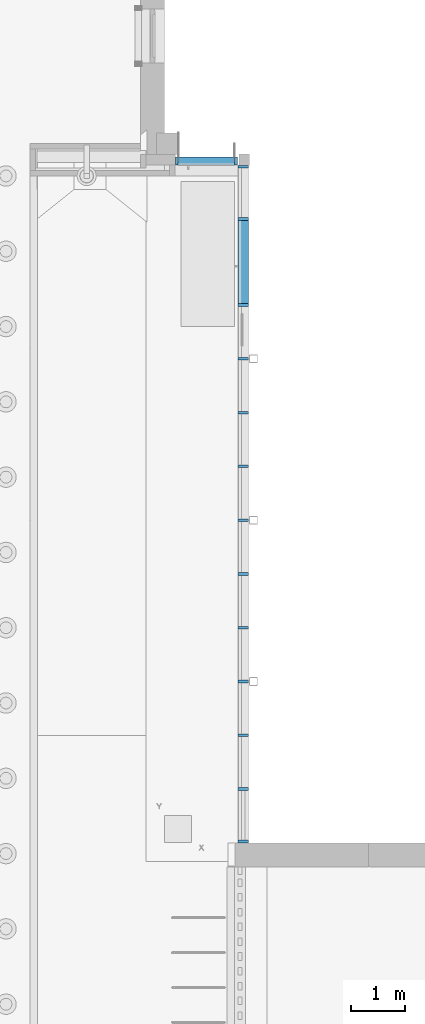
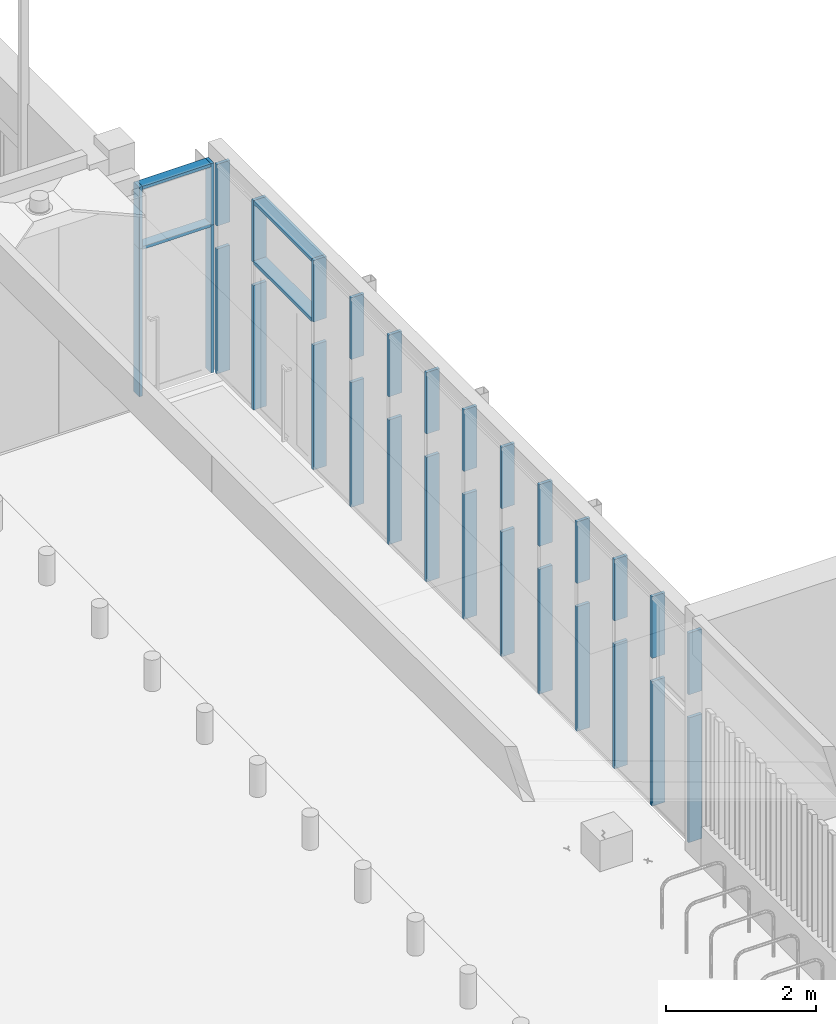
# One storey, part 5 of 77: 34 members, 2 elements without a shape of their own.
"""IFC2X3 building model written with IfcOpenShell, lengths in millimetres."""

import ifcopenshell
import ifcopenshell.guid

model = None  # the IFC model being written
_history = None  # IfcOwnerHistory: only IFC2X3 demands one
_inside = {}  # id of a spatial element -> (the spatial element, [elements in it])
_under = {}  # id of a project, library or spatial element -> (it, [spatial elements below it])
_declared = {}  # id of a project -> (the project, [libraries it declares])
_typed = {}  # id of a type object -> (the type object, [elements of that type])
_made_of = {}  # id of a material, layer set ... -> (it, [elements and type objects made of it])


def new_model(schema):
    """Start an empty IFC model of exactly this schema.

    Asked for "IFC4X3", IfcOpenShell would pick the latest addendum, in which some entities
    have other attributes; the version numbers below select the first issue.
    IFC2X3 requires an IfcOwnerHistory on every rooted entity: one is made here for all.
    """
    global model, _history
    if schema == "IFC4X3":
        model = ifcopenshell.file(schema_version=(4, 3, 0, 0))
    else:
        model = ifcopenshell.file(schema=schema)
    _inside.clear()
    _under.clear()
    _declared.clear()
    _typed.clear()
    _made_of.clear()
    _history = None
    if model.schema == "IFC2X3":
        org = make("IfcOrganization", Name="unknown")
        user = make(
            "IfcPersonAndOrganization",
            ThePerson=make("IfcPerson", FamilyName="unknown"),
            TheOrganization=org,
        )
        app = make(
            "IfcApplication",
            ApplicationDeveloper=org,
            Version="unknown",
            ApplicationFullName="unknown",
            ApplicationIdentifier="unknown",
        )
        _history = make(
            "IfcOwnerHistory",
            OwningUser=user,
            OwningApplication=app,
            ChangeAction="ADDED",
            CreationDate=0,
        )
    return model


def make(cls, **values):
    """One entity of the class cls with the attributes given. An attribute that is None is left unset."""
    return model.create_entity(
        cls, **{name: value for name, value in values.items() if value is not None}
    )


def entity(cls, *values):
    """Any entity or typed value of the class cls, its attributes in the order of the schema. None: left unset."""
    e = model.create_entity(cls)
    for i, value in enumerate(values):
        if value is not None:
            e[i] = value
    return e


def rooted(cls, **values):
    """An entity with a GlobalId (a new one), such as an element, a storey or a relation."""
    return make(cls, GlobalId=ifcopenshell.guid.new(), OwnerHistory=_history, **values)


def si_unit(unit_type, name, prefix=None):
    """IfcSIUnit, for example si_unit("LENGTHUNIT", "METRE", prefix="MILLI")."""
    return make("IfcSIUnit", UnitType=unit_type, Prefix=prefix, Name=name)


def converted_unit(unit_type, name, factor, base, dimensions=None, offset=None):
    """IfcConversionBasedUnit, such as the inch: factor (a typed value) times the base unit."""
    return make(
        "IfcConversionBasedUnit"
        if offset is None
        else "IfcConversionBasedUnitWithOffset",
        ConversionOffset=offset,
        Dimensions=None
        if dimensions is None
        else entity("IfcDimensionalExponents", *dimensions),
        UnitType=unit_type,
        Name=name,
        ConversionFactor=make(
            "IfcMeasureWithUnit", ValueComponent=factor, UnitComponent=base
        ),
    )


def derived_unit(unit_type, elements):
    """IfcDerivedUnit: a product of units, each with its exponent."""
    return make(
        "IfcDerivedUnit",
        Elements=[
            make("IfcDerivedUnitElement", Unit=unit, Exponent=power)
            for unit, power in elements
        ],
        UnitType=unit_type,
    )


def assignment(units):
    """IfcUnitAssignment: the units of a project."""
    return None if units is None else make("IfcUnitAssignment", Units=units)


def point(xyz):
    """IfcCartesianPoint."""
    return None if xyz is None else make("IfcCartesianPoint", Coordinates=xyz)


def direction(xyz):
    """IfcDirection."""
    return None if xyz is None else make("IfcDirection", DirectionRatios=xyz)


def frame(location, z_axis=None, x_axis=None):
    """IfcAxis2Placement3D, a coordinate frame: its origin and axes. An axis left out is left unset."""
    return make(
        "IfcAxis2Placement3D",
        Location=point(location),
        Axis=direction(z_axis),
        RefDirection=direction(x_axis),
    )


def frame_2d(location, x_axis=None):
    """IfcAxis2Placement2D, a coordinate frame in the plane: its origin and x axis."""
    return make(
        "IfcAxis2Placement2D", Location=point(location), RefDirection=direction(x_axis)
    )


def origin():
    """The frame at (0, 0, 0) with its axes left unset."""
    return frame((0.0, 0.0, 0.0))


def origin_2d_with_axis():
    """The frame at (0, 0) in the plane with the x axis (1, 0) written out."""
    return frame_2d((0.0, 0.0), x_axis=(1.0, 0.0))


def place(relative_to, where):
    """IfcLocalPlacement: puts the frame where relative to a parent placement (None: the world)."""
    return make(
        "IfcLocalPlacement", PlacementRelTo=relative_to, RelativePlacement=where
    )


def context(
    kind, dimensions, precision=None, world=None, true_north=None, identifier=None
):
    """IfcGeometricRepresentationContext, for example the 3D "Model" context."""
    return make(
        "IfcGeometricRepresentationContext",
        ContextIdentifier=identifier,
        ContextType=kind,
        CoordinateSpaceDimension=dimensions,
        Precision=precision,
        WorldCoordinateSystem=world,
        TrueNorth=true_north,
    )


def subcontext(parent, identifier, kind, view, scale=None):
    """IfcGeometricRepresentationSubContext, for example "Body" below "Model"."""
    return make(
        "IfcGeometricRepresentationSubContext",
        ContextIdentifier=identifier,
        ContextType=kind,
        ParentContext=parent,
        TargetScale=scale,
        TargetView=view,
    )


def project(units=None, contexts=None):
    """IfcProject with its units and contexts."""
    return rooted(
        "IfcProject",
        Name="project",
        RepresentationContexts=contexts,
        UnitsInContext=assignment(units),
    )


def spatial(cls, under=None, at=None, **own):
    """A site, building, storey or space (cls), placed at a placement, below another one or the project."""
    s = rooted(cls, ObjectPlacement=at, **own)
    if under is not None:
        _under.setdefault(under.id(), (under, []))[1].append(s)
    return s


def profile(cls, at=None, kind="AREA", **sizes):
    """A parametric profile (cls). Its sizes go by their IFC names, for example OverallWidth=200.0."""
    return make(cls, ProfileType=kind, Position=at, **sizes)


def rectangle(**sizes):
    """IfcRectangleProfileDef."""
    return profile("IfcRectangleProfileDef", **sizes)


def extrude(swept, where, along, depth):
    """IfcExtrudedAreaSolid: the profile swept, set in the frame where, extruded along a direction by depth."""
    return make(
        "IfcExtrudedAreaSolid",
        SweptArea=swept,
        Position=where,
        ExtrudedDirection=direction(along),
        Depth=depth,
    )


def shape(context_of_items, identifier, shape_type, items):
    """IfcShapeRepresentation: the items that make up one representation, for example the "Body"."""
    return make(
        "IfcShapeRepresentation",
        ContextOfItems=context_of_items,
        RepresentationIdentifier=identifier,
        RepresentationType=shape_type,
        Items=items,
    )


def source(mapping_origin, context_of_items, identifier, shape_type, items):
    """IfcRepresentationMap: a shape defined once, which mapped items show again and again."""
    return make(
        "IfcRepresentationMap",
        MappingOrigin=mapping_origin,
        MappedRepresentation=shape(context_of_items, identifier, shape_type, items),
    )


def transform(
    local_origin,
    x_axis=None,
    y_axis=None,
    z_axis=None,
    scale=None,
    scale2=None,
    scale3=None,
    uniform=True,
):
    """IfcCartesianTransformationOperator3D, or its non-uniform kind. x_axis, y_axis, z_axis: its Axis1, 2, 3."""
    if uniform:
        return make(
            "IfcCartesianTransformationOperator3D",
            Axis1=direction(x_axis),
            Axis2=direction(y_axis),
            LocalOrigin=point(local_origin),
            Scale=scale,
            Axis3=direction(z_axis),
        )
    return make(
        "IfcCartesianTransformationOperator3DnonUniform",
        Axis1=direction(x_axis),
        Axis2=direction(y_axis),
        LocalOrigin=point(local_origin),
        Scale=scale,
        Axis3=direction(z_axis),
        Scale2=scale2,
        Scale3=scale3,
    )


def mapped(mapping_source, mapping_target):
    """IfcMappedItem: shows the shape of a source again, moved by a transform."""
    return make(
        "IfcMappedItem", MappingSource=mapping_source, MappingTarget=mapping_target
    )


def material(Name=None, Category=None):
    """IfcMaterial."""
    return make("IfcMaterial", Name=Name, Category=Category)


def made_of(thing, what):
    """Note that an element or type object is made of a material, layer set ...; save() writes the relation."""
    if what is not None:
        _made_of.setdefault(what.id(), (what, []))[1].append(thing)
    return thing


def type_object(cls, material=None, **own):
    """A type object (cls), such as IfcWallType, which elements share."""
    return made_of(rooted(cls, **own), material)


def type_shapes(of_type, sources):
    """Give a type object the sources (RepresentationMaps) that its elements show as mapped items."""
    of_type.RepresentationMaps = sources


def element(
    cls,
    number,
    at=None,
    inside=None,
    cuts=None,
    type_object=None,
    material=None,
    context=None,
    identifier="Body",
    shape_type=None,
    held_by="IfcProductDefinitionShape",
    body=None,
    shapes=None,
    **own,
):
    """One element of the class cls, such as IfcWall. Its Tag is "e" and its number.

    at: its placement. inside: the storey or other place that contains it. cuts: it is an
    opening in that element (IfcRelVoidsElement). A single representation is given by context,
    identifier, shape_type and body (its items); several are given by shapes. held_by: the class
    of the entity that holds the representations. save() writes the other relations.
    """
    e = rooted(cls, Tag="e%d" % number, ObjectPlacement=at, **own)
    if body is not None:
        shapes = [shape(context, identifier, shape_type, body)]
    if shapes is not None:
        e.Representation = make(held_by, Representations=shapes)
    if inside is not None:
        _inside.setdefault(inside.id(), (inside, []))[1].append(e)
    if cuts is not None:
        rooted(
            "IfcRelVoidsElement", RelatingBuildingElement=cuts, RelatedOpeningElement=e
        )
    if type_object is not None:
        _typed.setdefault(type_object.id(), (type_object, []))[1].append(e)
    return made_of(e, material)


def aggregate(whole, parts):
    """IfcRelAggregates: a whole, such as a stair, and the parts it consists of."""
    return rooted("IfcRelAggregates", RelatingObject=whole, RelatedObjects=parts)


def save(model, path):
    """Write the relations noted so far, then the file.

    IfcRelAggregates (storeys below a building ...), IfcRelContainedInSpatialStructure (elements
    in a storey), IfcRelDefinesByType, IfcRelAssociatesMaterial and IfcRelDeclares: one each for
    every whole, place, type object, material and project.
    """
    for whole, parts in _under.values():
        aggregate(whole, parts)
    for where, things in _inside.values():
        rooted(
            "IfcRelContainedInSpatialStructure",
            RelatedElements=things,
            RelatingStructure=where,
        )
    for kind, things in _typed.values():
        rooted("IfcRelDefinesByType", RelatedObjects=things, RelatingType=kind)
    for what, things in _made_of.values():
        rooted("IfcRelAssociatesMaterial", RelatedObjects=things, RelatingMaterial=what)
    for by, libraries in _declared.values():
        rooted("IfcRelDeclares", RelatingContext=by, RelatedDefinitions=libraries)
    model.write(path)


model = new_model("IFC2X3")

# Units and contexts
model_context = context("Model", 3, precision=0.01, world=origin(), true_north=direction((6.12303176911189e-17, 1.0)))
body_context = subcontext(model_context, "Body", "Model", "MODEL_VIEW")
ifc_project = project(units=[si_unit("LENGTHUNIT", "METRE", prefix="MILLI"), si_unit("AREAUNIT", "SQUARE_METRE"), si_unit("VOLUMEUNIT", "CUBIC_METRE"), converted_unit("PLANEANGLEUNIT", "DEGREE", entity("IfcRatioMeasure", 0.0174532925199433), si_unit("PLANEANGLEUNIT", "RADIAN"), dimensions=[0, 0, 0, 0, 0, 0, 0]), si_unit("MASSUNIT", "GRAM", prefix="KILO"), derived_unit("MASSDENSITYUNIT", [(si_unit("MASSUNIT", "GRAM", prefix="KILO"), 1), (si_unit("LENGTHUNIT", "METRE"), -3)]), si_unit("TIMEUNIT", "SECOND"), si_unit("FREQUENCYUNIT", "HERTZ"), si_unit("THERMODYNAMICTEMPERATUREUNIT", "DEGREE_CELSIUS"), derived_unit("THERMALTRANSMITTANCEUNIT", [(si_unit("MASSUNIT", "GRAM", prefix="KILO"), 1), (si_unit("THERMODYNAMICTEMPERATUREUNIT", "KELVIN"), -1), (si_unit("TIMEUNIT", "SECOND"), -3)]), derived_unit("VOLUMETRICFLOWRATEUNIT", [(si_unit("LENGTHUNIT", "METRE"), 3), (si_unit("TIMEUNIT", "SECOND"), -1)]), si_unit("ELECTRICCURRENTUNIT", "AMPERE"), si_unit("ELECTRICVOLTAGEUNIT", "VOLT"), si_unit("POWERUNIT", "WATT"), si_unit("FORCEUNIT", "NEWTON", prefix="KILO"), si_unit("ILLUMINANCEUNIT", "LUX"), si_unit("LUMINOUSFLUXUNIT", "LUMEN"), si_unit("LUMINOUSINTENSITYUNIT", "CANDELA"), derived_unit("USERDEFINED", [(si_unit("MASSUNIT", "GRAM", prefix="KILO"), -1), (si_unit("LENGTHUNIT", "METRE"), -2), (si_unit("TIMEUNIT", "SECOND"), 3), (si_unit("LUMINOUSFLUXUNIT", "LUMEN"), 1)]), derived_unit("LINEARVELOCITYUNIT", [(si_unit("LENGTHUNIT", "METRE"), 1), (si_unit("TIMEUNIT", "SECOND"), -1)]), si_unit("PRESSUREUNIT", "PASCAL"), derived_unit("USERDEFINED", [(si_unit("LENGTHUNIT", "METRE"), -2), (si_unit("MASSUNIT", "GRAM", prefix="KILO"), 1), (si_unit("TIMEUNIT", "SECOND"), -2)])], contexts=[model_context])

# Site, building, storey
site_placement = place(None, origin())
site = spatial("IfcSite", under=ifc_project, at=site_placement, Name="Default", CompositionType="ELEMENT")
building_placement = place(site_placement, origin())
building = spatial("IfcBuilding", under=site, at=building_placement, CompositionType="ELEMENT")
storey_placement = place(building_placement, origin())
storey = spatial("IfcBuildingStorey", under=building, at=storey_placement, Name="1. KORRUS", CompositionType="ELEMENT", Elevation=0.0)

# Curtain wall, members
curtain_wall_type = type_object("IfcCurtainWallType", Name="Curtain Wall:KF01", PredefinedType="NOTDEFINED")
curtain_wall_1_placement = place(storey_placement, origin())
curtain_wall_1 = element("IfcCurtainWall", 1, at=curtain_wall_1_placement, inside=storey, type_object=curtain_wall_type, Name="Curtain Wall:KF01", ObjectType="Curtain Wall:KF01")
ifc_material = material(Name="Default New Material-al-profiilid")
member_type_1 = type_object("IfcMemberType", Name="50x200mm", PredefinedType="MEMBER")
shared_shape_1 = source(origin(), body_context, "Body", "SweptSolid", [
    extrude(rectangle(XDim=200.0, YDim=50.0, at=origin_2d_with_axis()), frame((-25.0, 0.0, -1000.0), z_axis=(0.0, 0.0, 1.0), x_axis=(0.0, -1.0, 0.0)), (0.0, 0.0, 1.0), 1000.0),
])
type_shapes(member_type_1, [shared_shape_1])
member_1_placement = place(storey_placement, frame((1460.004537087, 0.0, 3400.0), z_axis=(0.0, 0.0, 1.0), x_axis=(0.0, -1.0, 0.0)))
member_1 = element("IfcMember", 2, at=member_1_placement, type_object=member_type_1, material=ifc_material, Name="Rectangular Mullion:50x200mm", ObjectType="50x200mm", context=body_context, shape_type="MappedRepresentation", body=[
    mapped(shared_shape_1, transform((0.0, 0.0, 0.0), scale=1.0)),
])
member_type_2 = type_object("IfcMemberType", Name="50x200mm", PredefinedType="MEMBER")
shared_shape_2 = source(origin(), body_context, "Body", "SweptSolid", [
    extrude(rectangle(XDim=200.0, YDim=50.0, at=origin_2d_with_axis()), frame((-25.0, 0.0, -2025.0), z_axis=(0.0, 0.0, 1.0), x_axis=(0.0, -1.0, 0.0)), (0.0, 0.0, 1.0), 2025.0),
])
type_shapes(member_type_2, [shared_shape_2])
member_2_placement = place(storey_placement, frame((1460.00453708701, 12595.0, 0.0), z_axis=(0.0, 0.0, -1.0), x_axis=(0.0, 1.0, 0.0)))
member_2 = element("IfcMember", 3, at=member_2_placement, type_object=member_type_2, material=ifc_material, Name="Rectangular Mullion:50x200mm", ObjectType="50x200mm", context=body_context, shape_type="MappedRepresentation", body=[
    mapped(shared_shape_2, transform((0.0, 0.0, 0.0), scale=1.0)),
])
member_type_3 = type_object("IfcMemberType", Name="50x200mm", PredefinedType="MEMBER")
shared_shape_3 = source(origin(), body_context, "Body", "SweptSolid", [
    extrude(rectangle(XDim=200.0, YDim=50.0, at=origin_2d_with_axis()), frame((0.0, 0.0, -2025.0), z_axis=(0.0, 0.0, 1.0), x_axis=(0.0, -1.0, 0.0)), (0.0, 0.0, 1.0), 2025.0),
])
type_shapes(member_type_3, [shared_shape_3])
member_3_placement = place(storey_placement, frame((1460.004537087, 4000.0, 0.0), z_axis=(0.0, 0.0, -1.0), x_axis=(0.0, 1.0, 0.0)))
member_3 = element("IfcMember", 4, at=member_3_placement, type_object=member_type_3, material=ifc_material, Name="Rectangular Mullion:50x200mm", ObjectType="50x200mm", context=body_context, shape_type="MappedRepresentation", body=[
    mapped(shared_shape_3, transform((0.0, 0.0, 0.0), scale=1.0)),
])
member_4_placement = place(storey_placement, frame((1460.004537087, 5000.0, 0.0), z_axis=(0.0, 0.0, -1.0), x_axis=(0.0, 1.0, 0.0)))
member_4 = element("IfcMember", 5, at=member_4_placement, type_object=member_type_3, material=ifc_material, Name="Rectangular Mullion:50x200mm", ObjectType="50x200mm", context=body_context, shape_type="MappedRepresentation", body=[
    mapped(shared_shape_3, transform((0.0, 0.0, 0.0), scale=1.0)),
])
member_5_placement = place(storey_placement, frame((1460.004537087, 6000.0, 0.0), z_axis=(0.0, 0.0, -1.0), x_axis=(0.0, 1.0, 0.0)))
member_5 = element("IfcMember", 6, at=member_5_placement, type_object=member_type_3, material=ifc_material, Name="Rectangular Mullion:50x200mm", ObjectType="50x200mm", context=body_context, shape_type="MappedRepresentation", body=[
    mapped(shared_shape_3, transform((0.0, 0.0, 0.0), scale=1.0)),
])
member_6_placement = place(storey_placement, frame((1460.004537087, 7000.0, 0.0), z_axis=(0.0, 0.0, -1.0), x_axis=(0.0, 1.0, 0.0)))
member_6 = element("IfcMember", 7, at=member_6_placement, type_object=member_type_3, material=ifc_material, Name="Rectangular Mullion:50x200mm", ObjectType="50x200mm", context=body_context, shape_type="MappedRepresentation", body=[
    mapped(shared_shape_3, transform((0.0, 0.0, 0.0), scale=1.0)),
])
member_7_placement = place(storey_placement, frame((1460.00453708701, 9000.0, 0.0), z_axis=(0.0, 0.0, -1.0), x_axis=(0.0, 1.0, 0.0)))
member_7 = element("IfcMember", 8, at=member_7_placement, type_object=member_type_3, material=ifc_material, Name="Rectangular Mullion:50x200mm", ObjectType="50x200mm", context=body_context, shape_type="MappedRepresentation", body=[
    mapped(shared_shape_3, transform((0.0, 0.0, 0.0), scale=1.0)),
])
member_8_placement = place(storey_placement, frame((1460.00453708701, 10000.0, 0.0), z_axis=(0.0, 0.0, -1.0), x_axis=(0.0, 1.0, 0.0)))
member_8 = element("IfcMember", 9, at=member_8_placement, type_object=member_type_3, material=ifc_material, Name="Rectangular Mullion:50x200mm", ObjectType="50x200mm", context=body_context, shape_type="MappedRepresentation", body=[
    mapped(shared_shape_3, transform((0.0, 0.0, 0.0), scale=1.0)),
])
member_9_placement = place(storey_placement, frame((1460.00453708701, 8000.0, 0.0), z_axis=(0.0, 0.0, -1.0), x_axis=(0.0, 1.0, 0.0)))
member_9 = element("IfcMember", 10, at=member_9_placement, type_object=member_type_3, material=ifc_material, Name="Rectangular Mullion:50x200mm", ObjectType="50x200mm", context=body_context, shape_type="MappedRepresentation", body=[
    mapped(shared_shape_3, transform((0.0, 0.0, 0.0), scale=1.0)),
])
member_10_placement = place(storey_placement, frame((1460.00453708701, 11600.0, 0.0), z_axis=(0.0, 0.0, -1.0), x_axis=(0.0, 1.0, 0.0)))
member_10 = element("IfcMember", 11, at=member_10_placement, type_object=member_type_3, material=ifc_material, Name="Rectangular Mullion:50x200mm", ObjectType="50x200mm", context=body_context, shape_type="MappedRepresentation", body=[
    mapped(shared_shape_3, transform((0.0, 0.0, 0.0), scale=1.0)),
])
member_11_placement = place(storey_placement, frame((1460.004537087, 3000.0, 0.0), z_axis=(0.0, 0.0, -1.0), x_axis=(0.0, 1.0, 0.0)))
member_11 = element("IfcMember", 12, at=member_11_placement, type_object=member_type_3, material=ifc_material, Name="Rectangular Mullion:50x200mm", ObjectType="50x200mm", context=body_context, shape_type="MappedRepresentation", body=[
    mapped(shared_shape_3, transform((0.0, 0.0, 0.0), scale=1.0)),
])
member_12_placement = place(storey_placement, frame((1460.004537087, 2000.0, 0.0), z_axis=(0.0, 0.0, -1.0), x_axis=(0.0, 1.0, 0.0)))
member_12 = element("IfcMember", 13, at=member_12_placement, type_object=member_type_3, material=ifc_material, Name="Rectangular Mullion:50x200mm", ObjectType="50x200mm", context=body_context, shape_type="MappedRepresentation", body=[
    mapped(shared_shape_3, transform((0.0, 0.0, 0.0), scale=1.0)),
])
member_type_4 = type_object("IfcMemberType", Name="50x200mm", PredefinedType="MEMBER")
shared_shape_4 = source(origin(), body_context, "Body", "SweptSolid", [
    extrude(rectangle(XDim=200.0, YDim=50.0, at=origin_2d_with_axis()), frame((-25.0, 0.0, -1550.0), z_axis=(0.0, 0.0, 1.0), x_axis=(0.0, -1.0, 0.0)), (0.0, 0.0, 1.0), 1550.0),
])
type_shapes(member_type_4, [shared_shape_4])
member_13_placement = place(storey_placement, frame((1460.00453708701, 11575.0, 3400.0), z_axis=(0.0, 1.0, 0.0), x_axis=(0.0, 0.0, 1.0)))
member_13 = element("IfcMember", 14, at=member_13_placement, type_object=member_type_4, material=ifc_material, Name="Rectangular Mullion:50x200mm", ObjectType="50x200mm", context=body_context, shape_type="MappedRepresentation", body=[
    mapped(shared_shape_4, transform((0.0, 0.0, 0.0), scale=1.0)),
])
member_type_5 = type_object("IfcMemberType", Name="50x200mm", PredefinedType="MEMBER")
shared_shape_5 = source(origin(), body_context, "Body", "SweptSolid", [
    extrude(rectangle(XDim=200.0, YDim=50.0, at=origin_2d_with_axis()), frame((-25.0, 0.0, -1000.0), z_axis=(0.0, 0.0, 1.0), x_axis=(0.0, -1.0, 0.0)), (0.0, 0.0, 1.0), 1000.0),
])
type_shapes(member_type_5, [shared_shape_5])
member_14_placement = place(storey_placement, frame((1460.00453708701, 12595.0, 2400.0), z_axis=(0.0, 0.0, -1.0), x_axis=(0.0, 1.0, 0.0)))
member_14 = element("IfcMember", 15, at=member_14_placement, type_object=member_type_5, material=ifc_material, Name="Rectangular Mullion:50x200mm", ObjectType="50x200mm", context=body_context, shape_type="MappedRepresentation", body=[
    mapped(shared_shape_5, transform((0.0, 0.0, 0.0), scale=1.0)),
])
member_type_6 = type_object("IfcMemberType", Name="50x200mm", PredefinedType="MEMBER")
shared_shape_6 = source(origin(), body_context, "Body", "SweptSolid", [
    extrude(rectangle(XDim=200.0, YDim=50.0, at=origin_2d_with_axis()), frame((0.0, 0.0, -1000.0), z_axis=(0.0, 0.0, 1.0), x_axis=(0.0, -1.0, 0.0)), (0.0, 0.0, 1.0), 1000.0),
])
type_shapes(member_type_6, [shared_shape_6])
member_15_placement = place(storey_placement, frame((1460.004537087, 4000.0, 2400.0), z_axis=(0.0, 0.0, -1.0), x_axis=(0.0, 1.0, 0.0)))
member_15 = element("IfcMember", 16, at=member_15_placement, type_object=member_type_6, material=ifc_material, Name="Rectangular Mullion:50x200mm", ObjectType="50x200mm", context=body_context, shape_type="MappedRepresentation", body=[
    mapped(shared_shape_6, transform((0.0, 0.0, 0.0), scale=1.0)),
])
member_16_placement = place(storey_placement, frame((1460.004537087, 5000.0, 2400.0), z_axis=(0.0, 0.0, -1.0), x_axis=(0.0, 1.0, 0.0)))
member_16 = element("IfcMember", 17, at=member_16_placement, type_object=member_type_6, material=ifc_material, Name="Rectangular Mullion:50x200mm", ObjectType="50x200mm", context=body_context, shape_type="MappedRepresentation", body=[
    mapped(shared_shape_6, transform((0.0, 0.0, 0.0), scale=1.0)),
])
member_17_placement = place(storey_placement, frame((1460.004537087, 6000.0, 2400.0), z_axis=(0.0, 0.0, -1.0), x_axis=(0.0, 1.0, 0.0)))
member_17 = element("IfcMember", 18, at=member_17_placement, type_object=member_type_6, material=ifc_material, Name="Rectangular Mullion:50x200mm", ObjectType="50x200mm", context=body_context, shape_type="MappedRepresentation", body=[
    mapped(shared_shape_6, transform((0.0, 0.0, 0.0), scale=1.0)),
])
member_18_placement = place(storey_placement, frame((1460.004537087, 7000.0, 2400.0), z_axis=(0.0, 0.0, -1.0), x_axis=(0.0, 1.0, 0.0)))
member_18 = element("IfcMember", 19, at=member_18_placement, type_object=member_type_6, material=ifc_material, Name="Rectangular Mullion:50x200mm", ObjectType="50x200mm", context=body_context, shape_type="MappedRepresentation", body=[
    mapped(shared_shape_6, transform((0.0, 0.0, 0.0), scale=1.0)),
])
member_19_placement = place(storey_placement, frame((1460.00453708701, 9000.0, 2400.0), z_axis=(0.0, 0.0, -1.0), x_axis=(0.0, 1.0, 0.0)))
member_19 = element("IfcMember", 20, at=member_19_placement, type_object=member_type_6, material=ifc_material, Name="Rectangular Mullion:50x200mm", ObjectType="50x200mm", context=body_context, shape_type="MappedRepresentation", body=[
    mapped(shared_shape_6, transform((0.0, 0.0, 0.0), scale=1.0)),
])
member_20_placement = place(storey_placement, frame((1460.00453708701, 8000.0, 2400.0), z_axis=(0.0, 0.0, -1.0), x_axis=(0.0, 1.0, 0.0)))
member_20 = element("IfcMember", 21, at=member_20_placement, type_object=member_type_6, material=ifc_material, Name="Rectangular Mullion:50x200mm", ObjectType="50x200mm", context=body_context, shape_type="MappedRepresentation", body=[
    mapped(shared_shape_6, transform((0.0, 0.0, 0.0), scale=1.0)),
])
member_21_placement = place(storey_placement, frame((1460.004537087, 3000.0, 2400.0), z_axis=(0.0, 0.0, -1.0), x_axis=(0.0, 1.0, 0.0)))
member_21 = element("IfcMember", 22, at=member_21_placement, type_object=member_type_6, material=ifc_material, Name="Rectangular Mullion:50x200mm", ObjectType="50x200mm", context=body_context, shape_type="MappedRepresentation", body=[
    mapped(shared_shape_6, transform((0.0, 0.0, 0.0), scale=1.0)),
])
member_22_placement = place(storey_placement, frame((1460.004537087, 2000.0, 2400.0), z_axis=(0.0, 0.0, -1.0), x_axis=(0.0, 1.0, 0.0)))
member_22 = element("IfcMember", 23, at=member_22_placement, type_object=member_type_6, material=ifc_material, Name="Rectangular Mullion:50x200mm", ObjectType="50x200mm", context=body_context, shape_type="MappedRepresentation", body=[
    mapped(shared_shape_6, transform((0.0, 0.0, 0.0), scale=1.0)),
])
member_23_placement = place(storey_placement, frame((1460.004537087, 1000.0, 2400.0), z_axis=(0.0, 0.0, -1.0), x_axis=(0.0, 1.0, 0.0)))
member_23 = element("IfcMember", 24, at=member_23_placement, type_object=member_type_6, material=ifc_material, Name="Rectangular Mullion:50x200mm", ObjectType="50x200mm", context=body_context, shape_type="MappedRepresentation", body=[
    mapped(shared_shape_6, transform((0.0, 0.0, 0.0), scale=1.0)),
])
member_type_7 = type_object("IfcMemberType", Name="50x200mm", PredefinedType="MEMBER")
shared_shape_7 = source(origin(), body_context, "Body", "SweptSolid", [
    extrude(rectangle(XDim=200.0, YDim=50.0, at=origin_2d_with_axis()), frame((0.0, 0.0, -1000.0), z_axis=(0.0, 0.0, 1.0), x_axis=(0.0, -1.0, 0.0)), (0.0, 0.0, 1.0), 1000.0),
])
type_shapes(member_type_7, [shared_shape_7])
member_24_placement = place(storey_placement, frame((1460.00453708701, 10000.0, 2400.0), z_axis=(0.0, 0.0, -1.0), x_axis=(0.0, 1.0, 0.0)))
member_24 = element("IfcMember", 25, at=member_24_placement, type_object=member_type_7, material=ifc_material, Name="Rectangular Mullion:50x200mm", ObjectType="50x200mm", context=body_context, shape_type="MappedRepresentation", body=[
    mapped(shared_shape_7, transform((0.0, 0.0, 0.0), scale=1.0)),
])
member_25_placement = place(storey_placement, frame((1460.00453708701, 11600.0, 2400.0), z_axis=(0.0, 0.0, -1.0), x_axis=(0.0, 1.0, 0.0)))
member_25 = element("IfcMember", 26, at=member_25_placement, type_object=member_type_7, material=ifc_material, Name="Rectangular Mullion:50x200mm", ObjectType="50x200mm", context=body_context, shape_type="MappedRepresentation", body=[
    mapped(shared_shape_7, transform((0.0, 0.0, 0.0), scale=1.0)),
])
member_type_8 = type_object("IfcMemberType", Name="50x200mm", PredefinedType="MEMBER")
shared_shape_8 = source(origin(), body_context, "Body", "SweptSolid", [
    extrude(rectangle(XDim=200.0, YDim=50.0, at=origin_2d_with_axis()), frame((0.0, 0.0, -1550.0), z_axis=(0.0, 0.0, 1.0), x_axis=(0.0, -1.0, 0.0)), (0.0, 0.0, 1.0), 1550.0),
])
type_shapes(member_type_8, [shared_shape_8])
member_26_placement = place(storey_placement, frame((1460.00453708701, 11575.0, 2400.0), z_axis=(0.0, 1.0, 0.0), x_axis=(0.0, 0.0, 1.0)))
member_26 = element("IfcMember", 27, at=member_26_placement, type_object=member_type_8, material=ifc_material, Name="Rectangular Mullion:50x200mm", ObjectType="50x200mm", context=body_context, shape_type="MappedRepresentation", body=[
    mapped(shared_shape_8, transform((0.0, 0.0, 0.0), scale=1.0)),
])
member_type_9 = type_object("IfcMemberType", Name="50x200mm", PredefinedType="MEMBER")
shared_shape_9 = source(origin(), body_context, "Body", "SweptSolid", [
    extrude(rectangle(XDim=200.0, YDim=50.0, at=origin_2d_with_axis()), frame((0.0, 0.0, -2025.0), z_axis=(0.0, 0.0, 1.0), x_axis=(0.0, -1.0, 0.0)), (0.0, 0.0, 1.0), 2025.0),
])
type_shapes(member_type_9, [shared_shape_9])
member_27_placement = place(storey_placement, frame((1460.004537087, 1000.0, 0.0), z_axis=(0.0, 0.0, -1.0), x_axis=(0.0, 1.0, 0.0)))
member_27 = element("IfcMember", 28, at=member_27_placement, type_object=member_type_9, material=ifc_material, Name="Rectangular Mullion:50x200mm", ObjectType="50x200mm", context=body_context, shape_type="MappedRepresentation", body=[
    mapped(shared_shape_9, transform((0.0, 0.0, 0.0), scale=1.0)),
])
member_type_10 = type_object("IfcMemberType", Name="50x200mm", PredefinedType="MEMBER")
shared_shape_10 = source(origin(), body_context, "Body", "SweptSolid", [
    extrude(rectangle(XDim=200.0, YDim=50.0, at=origin_2d_with_axis()), frame((-25.0, 0.0, -2025.0), z_axis=(0.0, 0.0, 1.0), x_axis=(0.0, -1.0, 0.0)), (0.0, 0.0, 1.0), 2025.0),
])
type_shapes(member_type_10, [shared_shape_10])
member_28_placement = place(storey_placement, frame((1460.004537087, 0.0, 2025.0), z_axis=(0.0, 0.0, 1.0), x_axis=(0.0, -1.0, 0.0)))
member_28 = element("IfcMember", 29, at=member_28_placement, type_object=member_type_10, material=ifc_material, Name="Rectangular Mullion:50x200mm", ObjectType="50x200mm", context=body_context, shape_type="MappedRepresentation", body=[
    mapped(shared_shape_10, transform((0.0, 0.0, 0.0), scale=1.0)),
])
aggregate(curtain_wall_1, [member_1, member_2, member_3, member_4, member_5, member_6, member_7, member_8, member_13, member_9, member_10, member_14, member_15, member_16, member_17, member_18, member_19, member_24, member_20, member_25, member_26, member_11, member_12, member_27, member_21, member_22, member_23, member_28])

curtain_wall_2_placement = place(storey_placement, origin())
curtain_wall_2 = element("IfcCurtainWall", 30, at=curtain_wall_2_placement, inside=storey, type_object=curtain_wall_type, Name="Curtain Wall:KF01", ObjectType="Curtain Wall:KF01")
member_type_11 = type_object("IfcMemberType", Name="50x150mm", PredefinedType="MEMBER")
shared_shape_11 = source(origin(), body_context, "Body", "SweptSolid", [
    extrude(rectangle(XDim=150.0, YDim=50.0, at=origin_2d_with_axis()), frame((-25.0, 0.0, -2400.0), z_axis=(0.0, 0.0, 1.0), x_axis=(0.0, -1.0, 0.0)), (0.0, 0.0, 1.0), 2400.0),
])
type_shapes(member_type_11, [shared_shape_11])
member_29_placement = place(storey_placement, frame((1350.0, 12675.0, 0.0), z_axis=(0.0, 0.0, -1.0), x_axis=(1.0, 0.0, 0.0)))
member_29 = element("IfcMember", 31, at=member_29_placement, type_object=member_type_11, material=ifc_material, Name="Rectangular Mullion:50x150mm", ObjectType="50x150mm", context=body_context, shape_type="MappedRepresentation", body=[
    mapped(shared_shape_11, transform((0.0, 0.0, 0.0), scale=1.0)),
])
member_type_12 = type_object("IfcMemberType", Name="50x150mm", PredefinedType="MEMBER")
shared_shape_12 = source(origin(), body_context, "Body", "SweptSolid", [
    extrude(rectangle(XDim=150.0, YDim=50.0, at=origin_2d_with_axis()), frame((-25.0, 0.0, -1000.0), z_axis=(0.0, 0.0, 1.0), x_axis=(0.0, -1.0, 0.0)), (0.0, 0.0, 1.0), 1000.0),
])
type_shapes(member_type_12, [shared_shape_12])
member_30_placement = place(storey_placement, frame((200.0, 12675.0, 3400.0), z_axis=(0.0, 0.0, 1.0), x_axis=(-1.0, 0.0, 0.0)))
member_30 = element("IfcMember", 32, at=member_30_placement, type_object=member_type_12, material=ifc_material, Name="Rectangular Mullion:50x150mm", ObjectType="50x150mm", context=body_context, shape_type="MappedRepresentation", body=[
    mapped(shared_shape_12, transform((0.0, 0.0, 0.0), scale=1.0)),
])
member_type_13 = type_object("IfcMemberType", Name="50x150mm", PredefinedType="MEMBER")
shared_shape_13 = source(origin(), body_context, "Body", "SweptSolid", [
    extrude(rectangle(XDim=150.0, YDim=50.0, at=origin_2d_with_axis()), frame((-25.0, 0.0, -1000.0), z_axis=(0.0, 0.0, 1.0), x_axis=(0.0, -1.0, 0.0)), (0.0, 0.0, 1.0), 1000.0),
])
type_shapes(member_type_13, [shared_shape_13])
member_31_placement = place(storey_placement, frame((1350.0, 12675.0, 2400.0), z_axis=(0.0, 0.0, -1.0), x_axis=(1.0, 0.0, 0.0)))
member_31 = element("IfcMember", 33, at=member_31_placement, type_object=member_type_13, material=ifc_material, Name="Rectangular Mullion:50x150mm", ObjectType="50x150mm", context=body_context, shape_type="MappedRepresentation", body=[
    mapped(shared_shape_13, transform((0.0, 0.0, 0.0), scale=1.0)),
])
member_type_14 = type_object("IfcMemberType", Name="50x150mm", PredefinedType="MEMBER")
shared_shape_14 = source(origin(), body_context, "Body", "SweptSolid", [
    extrude(rectangle(XDim=150.0, YDim=50.0, at=origin_2d_with_axis()), frame((-25.0, 0.0, -2400.0), z_axis=(0.0, 0.0, 1.0), x_axis=(0.0, -1.0, 0.0)), (0.0, 0.0, 1.0), 2400.0),
])
type_shapes(member_type_14, [shared_shape_14])
member_32_placement = place(storey_placement, frame((200.0, 12675.0, 2400.0), z_axis=(0.0, 0.0, 1.0), x_axis=(-1.0, 0.0, 0.0)))
member_32 = element("IfcMember", 34, at=member_32_placement, type_object=member_type_14, material=ifc_material, Name="Rectangular Mullion:50x150mm", ObjectType="50x150mm", context=body_context, shape_type="MappedRepresentation", body=[
    mapped(shared_shape_14, transform((0.0, 0.0, 0.0), scale=1.0)),
])
member_type_15 = type_object("IfcMemberType", Name="50x150mm", PredefinedType="MEMBER")
shared_shape_15 = source(origin(), body_context, "Body", "SweptSolid", [
    extrude(rectangle(XDim=150.0, YDim=50.0, at=origin_2d_with_axis()), frame((0.0, 0.0, -1050.0), z_axis=(0.0, 0.0, 1.0), x_axis=(0.0, -1.0, 0.0)), (0.0, 0.0, 1.0), 1049.99999999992),
])
type_shapes(member_type_15, [shared_shape_15])
member_33_placement = place(storey_placement, frame((1300.0, 12675.0, 2400.0), z_axis=(1.0, 0.0, 0.0), x_axis=(0.0, 0.0, 1.0)))
member_33 = element("IfcMember", 35, at=member_33_placement, type_object=member_type_15, material=ifc_material, Name="Rectangular Mullion:50x150mm", ObjectType="50x150mm", context=body_context, shape_type="MappedRepresentation", body=[
    mapped(shared_shape_15, transform((0.0, 0.0, 0.0), scale=1.0)),
])
member_type_16 = type_object("IfcMemberType", Name="50x150mm", PredefinedType="MEMBER")
shared_shape_16 = source(origin(), body_context, "Body", "SweptSolid", [
    extrude(rectangle(XDim=150.0, YDim=50.0, at=origin_2d_with_axis()), frame((-25.0, 0.0, -1050.0), z_axis=(0.0, 0.0, 1.0), x_axis=(0.0, -1.0, 0.0)), (0.0, 0.0, 1.0), 1049.99999999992),
])
type_shapes(member_type_16, [shared_shape_16])
member_34_placement = place(storey_placement, frame((1300.0, 12675.0, 3400.0), z_axis=(1.0, 0.0, 0.0), x_axis=(0.0, 0.0, 1.0)))
member_34 = element("IfcMember", 36, at=member_34_placement, type_object=member_type_16, material=ifc_material, Name="Rectangular Mullion:50x150mm", ObjectType="50x150mm", context=body_context, shape_type="MappedRepresentation", body=[
    mapped(shared_shape_16, transform((0.0, 0.0, 0.0), scale=1.0)),
])
aggregate(curtain_wall_2, [member_29, member_30, member_31, member_32, member_33, member_34])

save(model, "model.ifc")
